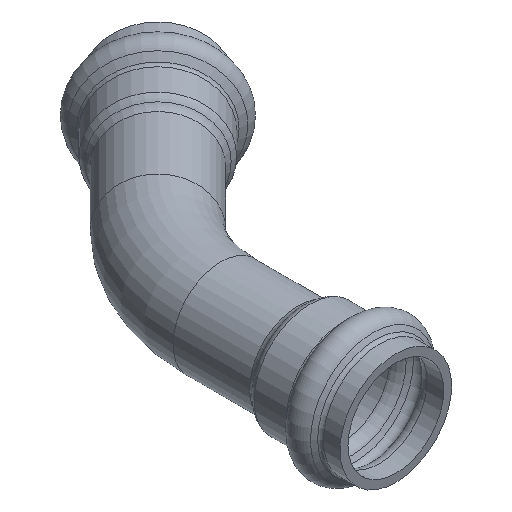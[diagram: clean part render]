
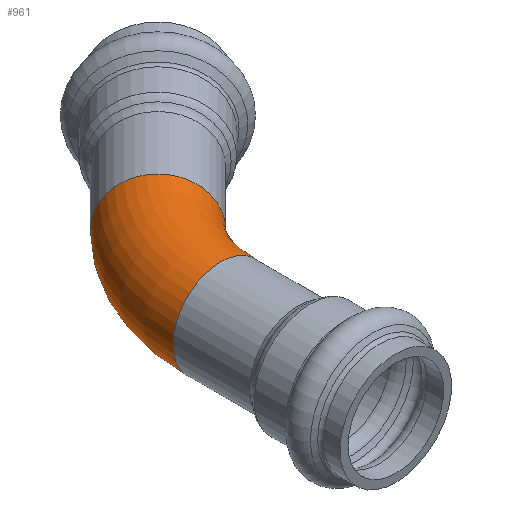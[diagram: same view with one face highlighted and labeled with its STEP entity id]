
A CAD part, isometric view. The second image highlights one B-rep face of the part: STEP entity #961.
In plain terms, the highlighted toroidal (fillet/blend) face has major radius 53.086 mm and minor radius 16.701 mm.
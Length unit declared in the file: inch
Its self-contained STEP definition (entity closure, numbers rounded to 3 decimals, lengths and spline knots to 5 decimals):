
#125=FACE_OUTER_BOUND('',#167,.T.);
#167=EDGE_LOOP('',(#651,#652,#653,#654,#655,#656));
#232=CIRCLE('',#1054,0.6575);
#233=CIRCLE('',#1055,0.6575);
#234=CIRCLE('',#1057,1.4325);
#235=CIRCLE('',#1058,0.6575);
#236=CIRCLE('',#1059,0.6575);
#355=VERTEX_POINT('',#1658);
#356=VERTEX_POINT('',#1660);
#357=VERTEX_POINT('',#1664);
#358=VERTEX_POINT('',#1666);
#475=EDGE_CURVE('',#356,#355,#232,.T.);
#476=EDGE_CURVE('',#355,#356,#233,.T.);
#477=EDGE_CURVE('',#356,#357,#234,.T.);
#478=EDGE_CURVE('',#358,#357,#235,.T.);
#479=EDGE_CURVE('',#357,#358,#236,.T.);
#651=ORIENTED_EDGE('',*,*,#476,.T.);
#652=ORIENTED_EDGE('',*,*,#477,.T.);
#653=ORIENTED_EDGE('',*,*,#478,.F.);
#654=ORIENTED_EDGE('',*,*,#479,.F.);
#655=ORIENTED_EDGE('',*,*,#477,.F.);
#656=ORIENTED_EDGE('',*,*,#475,.T.);
#894=TOROIDAL_SURFACE('',#1056,2.09,0.6575);
#961=ADVANCED_FACE('',(#125),#894,.T.);
#1054=AXIS2_PLACEMENT_3D('',#1661,#1285,#1286);
#1055=AXIS2_PLACEMENT_3D('',#1662,#1287,#1288);
#1056=AXIS2_PLACEMENT_3D('',#1663,#1289,#1290);
#1057=AXIS2_PLACEMENT_3D('',#1665,#1291,#1292);
#1058=AXIS2_PLACEMENT_3D('',#1667,#1293,#1294);
#1059=AXIS2_PLACEMENT_3D('',#1668,#1295,#1296);
#1285=DIRECTION('center_axis',(0.,1.,0.));
#1286=DIRECTION('ref_axis',(1.,0.,0.));
#1287=DIRECTION('center_axis',(0.,1.,0.));
#1288=DIRECTION('ref_axis',(1.,0.,0.));
#1289=DIRECTION('center_axis',(0.,0.,1.));
#1290=DIRECTION('ref_axis',(1.,0.,0.));
#1291=DIRECTION('center_axis',(0.,0.,-1.));
#1292=DIRECTION('ref_axis',(1.,0.,0.));
#1293=DIRECTION('center_axis',(0.707,0.707,0.));
#1294=DIRECTION('ref_axis',(0.707,-0.707,0.));
#1295=DIRECTION('center_axis',(0.707,0.707,0.));
#1296=DIRECTION('ref_axis',(0.707,-0.707,0.));
#1658=CARTESIAN_POINT('',(-0.6575,-0.86571,0.));
#1660=CARTESIAN_POINT('',(0.6575,-0.86571,0.));
#1661=CARTESIAN_POINT('Origin',(0.,-0.86571,
0.));
#1662=CARTESIAN_POINT('Origin',(0.,-0.86571,
0.));
#1663=CARTESIAN_POINT('Origin',(2.09,-0.86571,0.));
#1664=CARTESIAN_POINT('',(1.07707,0.14722,0.));
#1665=CARTESIAN_POINT('Origin',(2.09,-0.86571,0.));
#1666=CARTESIAN_POINT('',(0.14722,1.07707,0.));
#1667=CARTESIAN_POINT('Origin',(0.61215,0.61215,0.));
#1668=CARTESIAN_POINT('Origin',(0.61215,0.61215,0.));
